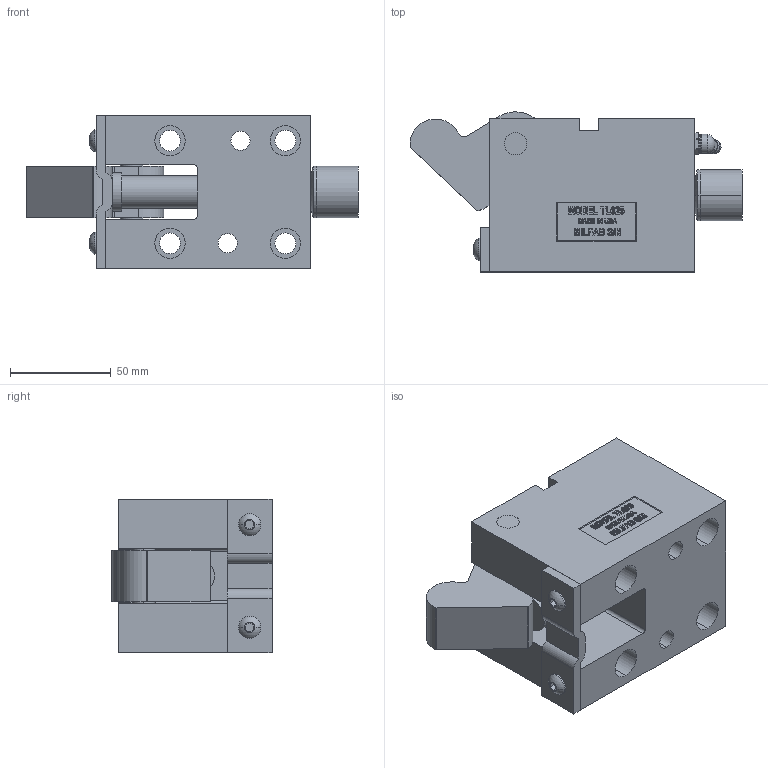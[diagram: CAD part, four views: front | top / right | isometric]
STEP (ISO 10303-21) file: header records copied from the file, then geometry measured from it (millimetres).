
FILE_DESCRIPTION (( 'STEP AP214' ), '1' );
FILE_NAME ('TL62545-O.STEP', '2014-01-05T22:18:00', ( 'user' ), ( '' ), 'SwSTEP 2.0', 'SolidWorks 2009', '' );
FILE_SCHEMA (( 'AUTOMOTIVE_DESIGN' ));
Length unit declared in the file: inch
Products named in the file (11): TL62545-O; I-625-POINT; L625-PUNCH; TL625-BODY; 625-I-STRAP; 625 PIVOT PIN; 625-WASHER; 625 STRIPPER OPEN; GREASE ZERK; 1-4 SCREW; 625-OFFSET TRIGGER
Assembly tree (11 placements, depth 2):
  TL62545-O
    625 STRIPPER OPEN
    GREASE ZERK
    L625-PUNCH
    625-OFFSET TRIGGER
    625-I-STRAP
    I-625-POINT
    1-4 SCREW  x2
    625-WASHER
    TL625-BODY
    625 PIVOT PIN
Bounding box: 164.51 x 79.37 x 76.2 mm (x, y, z)
Volume: 521064.3 mm3; surface area: 96496.3 mm2
Topology: 11 solids, 11 shells, 589 faces, 1520 edges, 998 vertices
Faces by surface type: plane 342, cylinder 102, bspline 91, cone 30, torus 20, sphere 4
Entity records: 23093 total; most frequent: CARTESIAN_POINT 9183, ORIENTED_EDGE 2952, DIRECTION 2434, EDGE_CURVE 1476, VERTEX_POINT 972, LINE 970, VECTOR 970, AXIS2_PLACEMENT_3D 732
